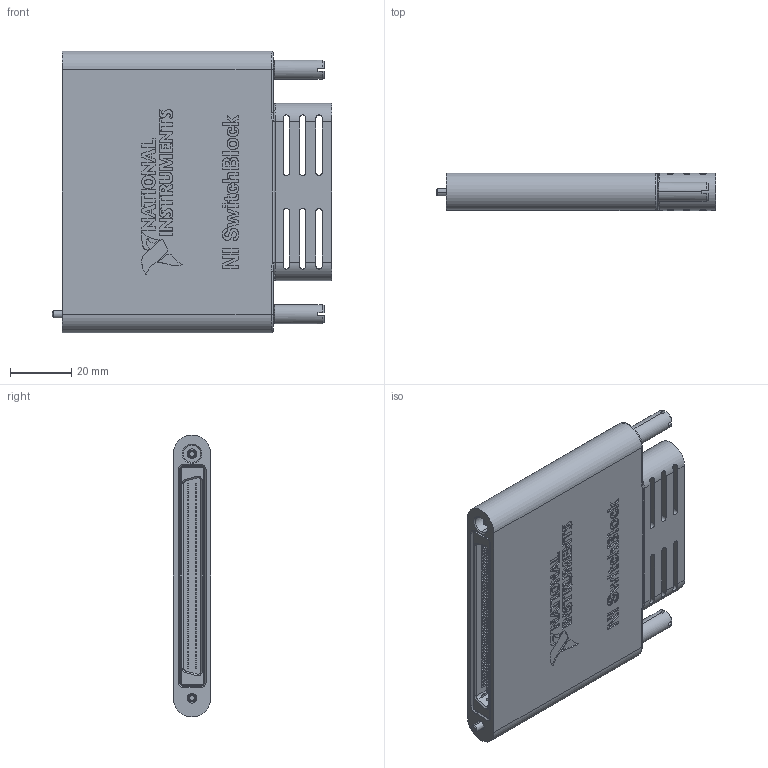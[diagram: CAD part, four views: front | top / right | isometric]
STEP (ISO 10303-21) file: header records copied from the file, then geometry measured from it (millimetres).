
FILE_DESCRIPTION((''),'2;1');
FILE_NAME('CU_SH96F-96M_MALE','2010-05-21T',('jjorden'),(''),'PRO/ENGINEER BY PARAMETRIC TECHNOLOGY CORPORATION, 2006080','PRO/ENGINEER BY PARAMETRIC TECHNOLOGY CORPORATION, 2006080','');
FILE_SCHEMA(('CONFIG_CONTROL_DESIGN'));
Length unit declared in the file: inch
Products named in the file (1): CU_SH96F-96M_MALE
Bounding box: 91.26 x 12.19 x 91.95 mm (x, y, z)
Volume: 75967.1 mm3; surface area: 32766 mm2
Topology: 1 solids, 2 shells, 2953 faces, 7688 edges, 4980 vertices
Faces by surface type: plane 2269, cylinder 452, extrusion 196, cone 26, torus 6, bspline 4
Entity records: 92709 total; most frequent: CARTESIAN_POINT 19638, ORIENTED_EDGE 15376, DIRECTION 13938, EDGE_CURVE 7688, VECTOR 6416, LINE 6220, VERTEX_POINT 4980, AXIS2_PLACEMENT_3D 3761
